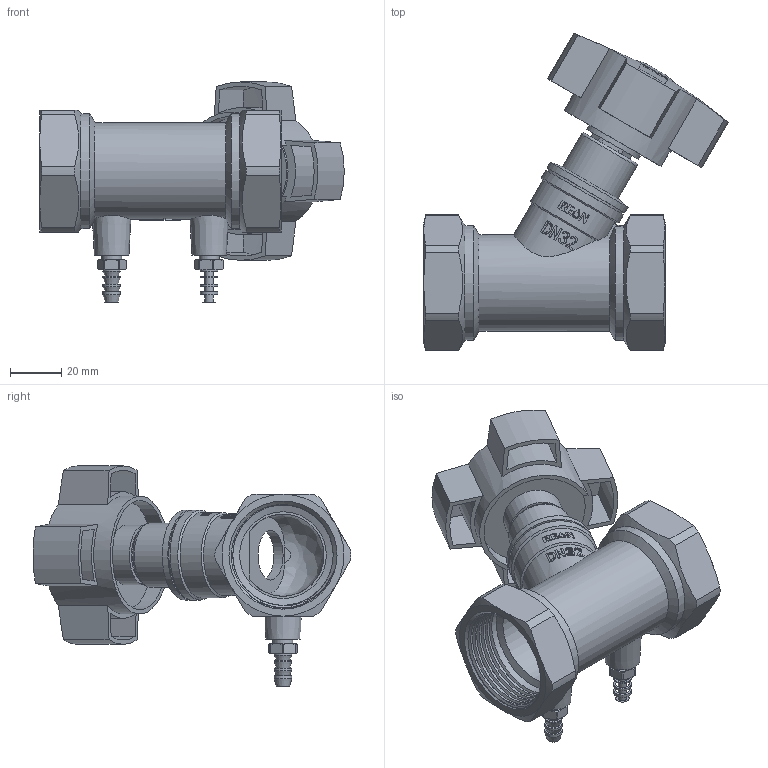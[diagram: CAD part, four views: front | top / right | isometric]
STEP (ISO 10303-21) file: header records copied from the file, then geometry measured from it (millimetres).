
FILE_DESCRIPTION(/* description */ ('STEP AP203'),/* implementation_level */ '2;1');
FILE_NAME(/* name */ 'RSV54-DN32.stp',/* time_stamp */ '2024-12-12T15:10:46+07:00',/* author */ ('Eva'),/* organization */ (''),/* preprocessor_version */ 'ST-DEVELOPER v20',/* originating_system */ 'Autodesk Inventor 2025',/* authorisation */ '');
FILE_SCHEMA (('AUTOMOTIVE_DESIGN { 1 0 10303 214 3 1 1 }'));
Length unit declared in the file: metre
Products named in the file (1): ZL-6602-11£¯4-00 Æ½ºâ·§
Bounding box: 118.63 x 123.89 x 85.75 mm (x, y, z)
Volume: 121501.5 mm3; surface area: 74421.1 mm2
Topology: 16 solids, 16 shells, 855 faces, 2205 edges, 1440 vertices
Faces by surface type: cylinder 329, plane 299, cone 104, bspline 96, sphere 14, torus 13
Full cylindrical faces by diameter (mm): 1.4 x2, 2 x2, 3.3 x2, 4 x2, 4.1 x5, 4.2 x8, 5 x12, 6.2 x2, 6.5 x1, 6.7 x2, 6.75 x12, 6.8 x8, 7 x1, 7.8 x2, 8 x10, 8.1 x1, 8.9 x2, 9.5 x1, 9.8 x2, 10 x3, 10.5 x23, 10.6 x1, 12 x28, 12.5 x1, 13 x1, 13.5 x1, 14 x1, 16.5 x1, 16.8 x1, 17 x2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
Entity records: 52418 total; most frequent: CARTESIAN_POINT 32701, ORIENTED_EDGE 4400, DIRECTION 3703, EDGE_CURVE 2200, VERTEX_POINT 1440, AXIS2_PLACEMENT_3D 1415, EDGE_LOOP 946, LINE 873
